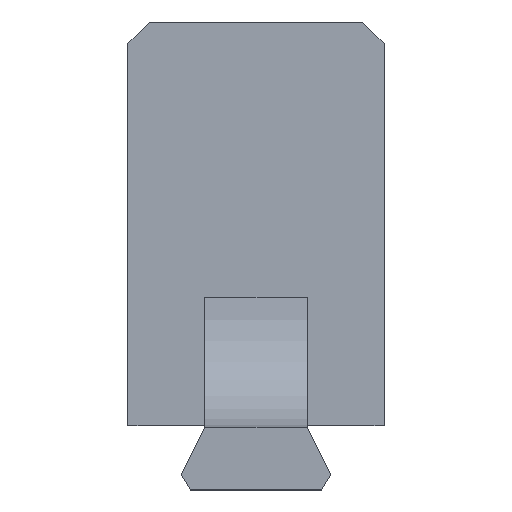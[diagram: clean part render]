
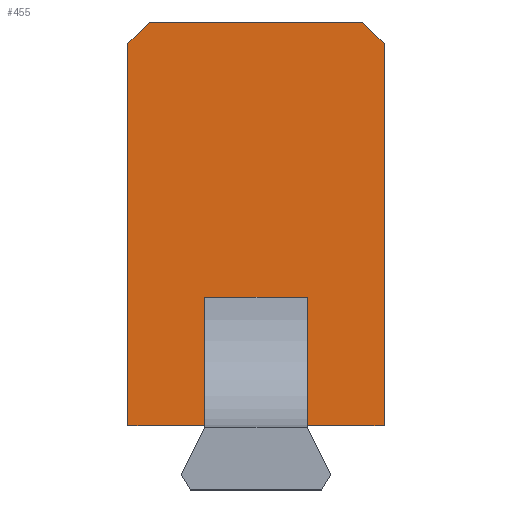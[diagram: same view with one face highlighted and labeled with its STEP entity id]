
A CAD part, top view. The second image highlights one B-rep face of the part: STEP entity #455.
In plain terms, the highlighted planar face has unit normal (0, 0, 1).
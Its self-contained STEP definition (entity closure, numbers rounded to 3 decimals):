
#28=FACE_OUTER_BOUND('',#53,.T.);
#53=EDGE_LOOP('',(#332,#333,#334,#335,#336,#337,#338,#339,#340,#341,#342,
#343));
#85=LINE('',#663,#146);
#88=LINE('',#669,#149);
#90=LINE('',#675,#151);
#93=LINE('',#681,#154);
#96=LINE('',#687,#157);
#97=LINE('',#689,#158);
#98=LINE('',#691,#159);
#99=LINE('',#692,#160);
#100=LINE('',#694,#161);
#101=LINE('',#696,#162);
#102=LINE('',#698,#163);
#103=LINE('',#699,#164);
#146=VECTOR('',#541,10.);
#149=VECTOR('',#546,10.);
#151=VECTOR('',#550,10.);
#154=VECTOR('',#555,10.);
#157=VECTOR('',#560,10.);
#158=VECTOR('',#561,10.);
#159=VECTOR('',#562,10.);
#160=VECTOR('',#563,10.);
#161=VECTOR('',#564,10.);
#162=VECTOR('',#565,10.);
#163=VECTOR('',#566,10.);
#164=VECTOR('',#567,10.);
#200=VERTEX_POINT('',#656);
#203=VERTEX_POINT('',#661);
#205=VERTEX_POINT('',#667);
#206=VERTEX_POINT('',#671);
#208=VERTEX_POINT('',#674);
#210=VERTEX_POINT('',#680);
#212=VERTEX_POINT('',#686);
#213=VERTEX_POINT('',#688);
#214=VERTEX_POINT('',#690);
#215=VERTEX_POINT('',#693);
#216=VERTEX_POINT('',#695);
#217=VERTEX_POINT('',#697);
#248=EDGE_CURVE('',#200,#203,#85,.T.);
#251=EDGE_CURVE('',#203,#205,#88,.T.);
#253=EDGE_CURVE('',#208,#206,#90,.T.);
#256=EDGE_CURVE('',#210,#208,#93,.T.);
#259=EDGE_CURVE('',#205,#212,#96,.T.);
#260=EDGE_CURVE('',#212,#213,#97,.T.);
#261=EDGE_CURVE('',#213,#214,#98,.T.);
#262=EDGE_CURVE('',#214,#210,#99,.T.);
#263=EDGE_CURVE('',#206,#215,#100,.T.);
#264=EDGE_CURVE('',#216,#215,#101,.T.);
#265=EDGE_CURVE('',#216,#217,#102,.T.);
#266=EDGE_CURVE('',#200,#217,#103,.T.);
#332=ORIENTED_EDGE('',*,*,#248,.T.);
#333=ORIENTED_EDGE('',*,*,#251,.T.);
#334=ORIENTED_EDGE('',*,*,#259,.T.);
#335=ORIENTED_EDGE('',*,*,#260,.T.);
#336=ORIENTED_EDGE('',*,*,#261,.T.);
#337=ORIENTED_EDGE('',*,*,#262,.T.);
#338=ORIENTED_EDGE('',*,*,#256,.T.);
#339=ORIENTED_EDGE('',*,*,#253,.T.);
#340=ORIENTED_EDGE('',*,*,#263,.T.);
#341=ORIENTED_EDGE('',*,*,#264,.F.);
#342=ORIENTED_EDGE('',*,*,#265,.T.);
#343=ORIENTED_EDGE('',*,*,#266,.F.);
#431=PLANE('',#494);
#455=ADVANCED_FACE('',(#28),#431,.T.);
#494=AXIS2_PLACEMENT_3D('',#685,#558,#559);
#541=DIRECTION('',(0.,1.,0.));
#546=DIRECTION('',(1.,0.,0.));
#550=DIRECTION('',(1.,0.,0.));
#555=DIRECTION('',(0.,-1.,0.));
#558=DIRECTION('center_axis',(0.,0.,1.));
#559=DIRECTION('ref_axis',(1.,0.,0.));
#560=DIRECTION('',(0.,1.,0.));
#561=DIRECTION('',(-0.707,0.707,0.));
#562=DIRECTION('',(-1.,0.,0.));
#563=DIRECTION('',(-0.707,-0.707,0.));
#564=DIRECTION('',(0.,1.,0.));
#565=DIRECTION('',(-1.,0.,0.));
#566=DIRECTION('',(0.,-1.,0.));
#567=DIRECTION('',(-1.,0.,0.));
#656=CARTESIAN_POINT('',(40.411,0.,74.25));
#661=CARTESIAN_POINT('',(40.411,0.08,74.25));
#663=CARTESIAN_POINT('',(40.411,0.,74.25));
#667=CARTESIAN_POINT('',(44.,0.08,74.25));
#669=CARTESIAN_POINT('',(35.,0.08,74.25));
#671=CARTESIAN_POINT('',(35.589,0.08,74.25));
#674=CARTESIAN_POINT('',(32.,0.08,74.25));
#675=CARTESIAN_POINT('',(35.,0.08,74.25));
#680=CARTESIAN_POINT('',(32.,18.,74.25));
#681=CARTESIAN_POINT('',(32.,0.,74.25));
#685=CARTESIAN_POINT('Origin',(32.,0.,74.25));
#686=CARTESIAN_POINT('',(44.,18.,74.25));
#687=CARTESIAN_POINT('',(44.,0.,74.25));
#688=CARTESIAN_POINT('',(43.,19.,74.25));
#689=CARTESIAN_POINT('',(45.25,16.75,74.25));
#690=CARTESIAN_POINT('',(33.,19.,74.25));
#691=CARTESIAN_POINT('',(44.,19.,74.25));
#692=CARTESIAN_POINT('',(27.75,13.75,74.25));
#693=CARTESIAN_POINT('',(35.589,6.1,74.25));
#694=CARTESIAN_POINT('',(35.589,1.525,74.25));
#695=CARTESIAN_POINT('',(40.41,6.1,74.25));
#696=CARTESIAN_POINT('',(35.589,6.1,74.25));
#697=CARTESIAN_POINT('',(40.41,0.,74.25));
#698=CARTESIAN_POINT('',(40.41,1.525,74.25));
#699=CARTESIAN_POINT('',(33.75,0.,74.25));
